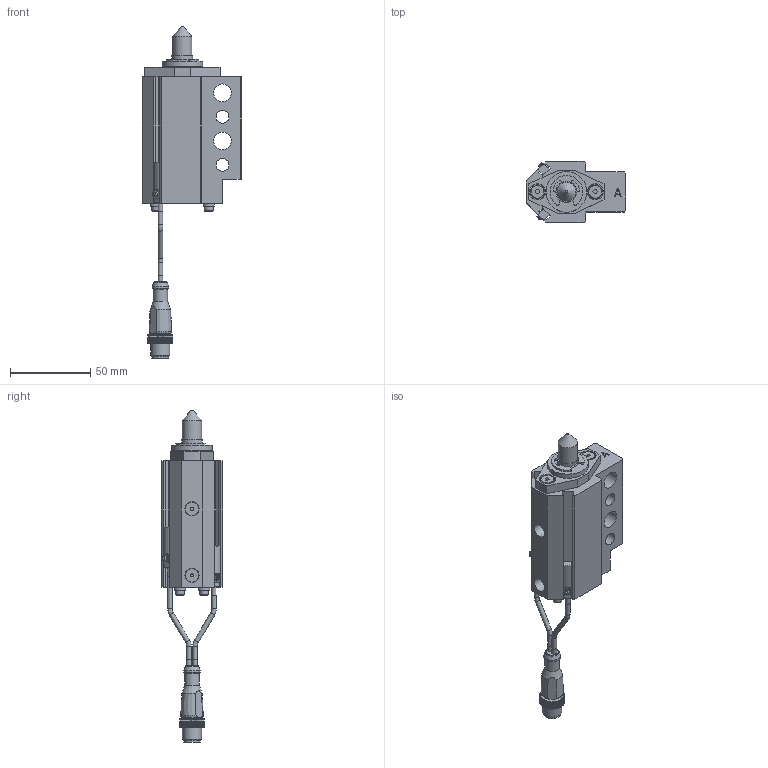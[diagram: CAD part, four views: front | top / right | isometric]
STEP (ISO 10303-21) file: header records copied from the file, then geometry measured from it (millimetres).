
FILE_DESCRIPTION(/* description */ ('NAAMS FLOATING MICRO PIN'),/* implementation_level */ '2;1');
FILE_NAME(/* name */ 'C:\Vault Workspace\CAD\Welker\Shot Pin\NMP\NMP120012AANL3.stp',/* time_stamp */ '2021-01-27T10:14:57-05:00',/* author */ ('WELKER'),/* organization */ (''),/* preprocessor_version */ 'ST-DEVELOPER v18.1',/* originating_system */ 'Autodesk Inventor 2020',/* authorisation */ '');
FILE_SCHEMA (('AUTOMOTIVE_DESIGN { 1 0 10303 214 3 1 1 }'));
Length unit declared in the file: millimetre
Products named in the file (16): NMPL01; NMP L3 SWITCH; L3 Connector; L3 Sensor 1; L3 Sensor 2; L3 Sensor cable; L3 Sensor cable 2; M3X0.5-8 SHCS; NL3; NMPE06; NMPE03; NMPE05-DIA-LENGTH; 985432A218; NMPE01A-PORT; RMPE02; M5X5 SHOULDER
Assembly tree (22 placements, depth 3):
  NMPL01
    NMP L3 SWITCH
      L3 Connector
      L3 Sensor 1
      L3 Sensor 2
      L3 Sensor cable
      L3 Sensor cable 2
    M3X0.5-8 SHCS  x4
    NL3  x4
    NMPE06
    NMPE03
    NMPE05-DIA-LENGTH
    985432A218
    NMPE01A-PORT
    RMPE02
    M5X5 SHOULDER  x2
Bounding box: 62 x 38.1 x 207.12 mm (x, y, z)
Volume: 109443 mm3; surface area: 45569.9 mm2
Topology: 21 solids, 21 shells, 744 faces, 2018 edges, 1349 vertices
Faces by surface type: plane 553, cylinder 144, cone 31, torus 11, sphere 3, bspline 2
Full cylindrical faces by diameter (mm): 2 x2, 2.459 x4, 2.9 x10, 3 x5, 3.242 x2, 3.4 x4, 4 x2, 5 x6, 5.5 x4, 7 x4, 8 x2, 8.3 x2, 9 x3, 10 x3, 10.4 x1, 10.5 x1, 11 x2, 12 x2, 13 x3, 16 x2, 19.05 x3, 21 x1, 22.5 x1, 23.672 x1, 24 x1, 25.4 x1, 25.5 x1, 26.5 x1, 28.677 x1, 29.21 x1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
Entity records: 22752 total; most frequent: CARTESIAN_POINT 4155, ORIENTED_EDGE 3734, DIRECTION 3717, EDGE_CURVE 1867, LINE 1383, VECTOR 1383, VERTEX_POINT 1254, AXIS2_PLACEMENT_3D 1167
